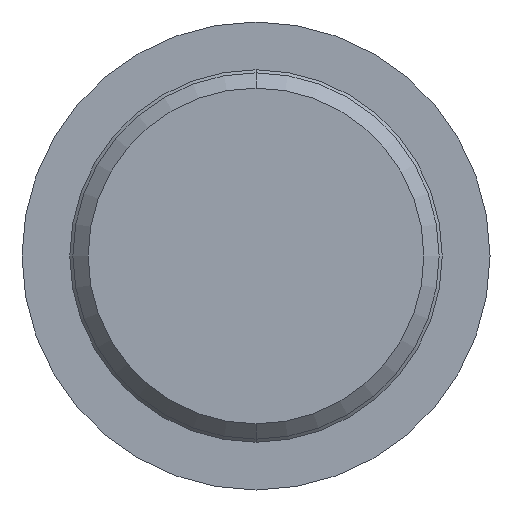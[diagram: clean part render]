
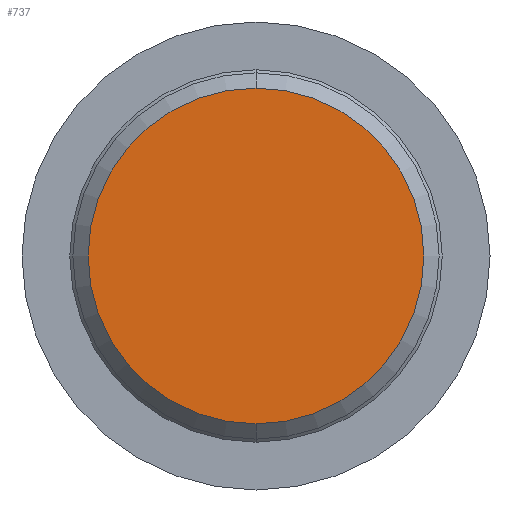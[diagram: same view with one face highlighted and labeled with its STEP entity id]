
A CAD part, front view. The second image highlights one B-rep face of the part: STEP entity #737.
In plain terms, the highlighted planar face has unit normal (0, -1, 0).
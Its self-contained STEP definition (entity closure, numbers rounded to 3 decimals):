
#72 = ORIENTED_EDGE ( 'NONE', *, *, #495, .F. ) ;
#139 = EDGE_CURVE ( 'NONE', #163, #167, #343, .T. ) ;
#146 = AXIS2_PLACEMENT_3D ( 'NONE', #310, #363, #539 ) ;
#151 = PLANE ( 'NONE',  #721 ) ;
#163 = VERTEX_POINT ( 'NONE', #599 ) ;
#167 = VERTEX_POINT ( 'NONE', #247 ) ;
#215 = ORIENTED_EDGE ( 'NONE', *, *, #139, .F. ) ;
#234 = AXIS2_PLACEMENT_3D ( 'NONE', #283, #366, #598 ) ;
#247 = CARTESIAN_POINT ( 'NONE',  ( 0., 0., -8.25 ) ) ;
#269 = DIRECTION ( 'NONE',  ( 0., 0., 1. ) ) ;
#283 = CARTESIAN_POINT ( 'NONE',  ( 0., 0., 0. ) ) ;
#310 = CARTESIAN_POINT ( 'NONE',  ( 0., 0., 0. ) ) ;
#328 = CARTESIAN_POINT ( 'NONE',  ( 8.25, 0., 0. ) ) ;
#343 = CIRCLE ( 'NONE', #146, 8.25 ) ;
#363 = DIRECTION ( 'NONE',  ( 0., 1., 0. ) ) ;
#366 = DIRECTION ( 'NONE',  ( 0., 1., 0. ) ) ;
#439 = EDGE_LOOP ( 'NONE', ( #215, #72 ) ) ;
#495 = EDGE_CURVE ( 'NONE', #167, #163, #569, .T. ) ;
#539 = DIRECTION ( 'NONE',  ( 0., 0., 1. ) ) ;
#569 = CIRCLE ( 'NONE', #234, 8.25 ) ;
#598 = DIRECTION ( 'NONE',  ( 0., 0., 1. ) ) ;
#599 = CARTESIAN_POINT ( 'NONE',  ( 0., 0., 8.25 ) ) ;
#615 = DIRECTION ( 'NONE',  ( 0., 1., 0. ) ) ;
#631 = FACE_OUTER_BOUND ( 'NONE', #439, .T. ) ;
#721 = AXIS2_PLACEMENT_3D ( 'NONE', #328, #615, #269 ) ;
#737 = ADVANCED_FACE ( 'NONE', ( #631 ), #151, .F. ) ;
